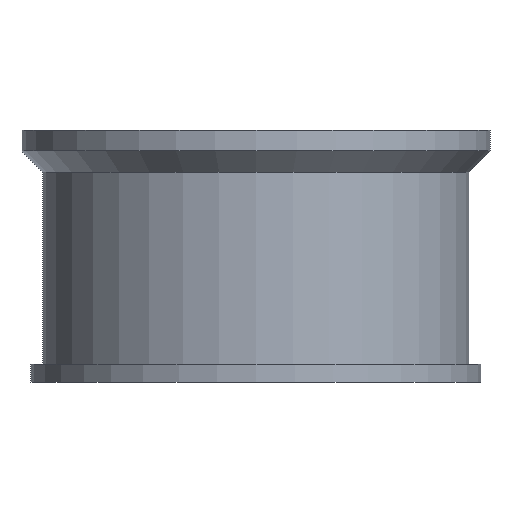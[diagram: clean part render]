
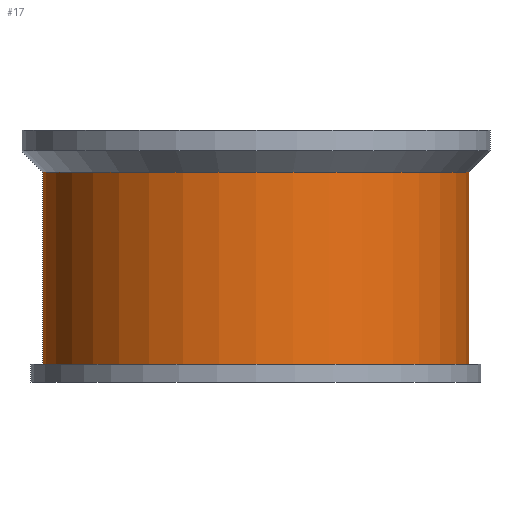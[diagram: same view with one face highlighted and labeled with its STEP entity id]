
A CAD part, front view. The second image highlights one B-rep face of the part: STEP entity #17.
In plain terms, the highlighted cylindrical face has radius 3.55 mm (diameter 7.1 mm), a full revolution.
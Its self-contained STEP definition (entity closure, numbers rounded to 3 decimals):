
#17 = ADVANCED_FACE('',(#18),#31,.T.);
#18 = FACE_BOUND('',#19,.T.);
#19 = EDGE_LOOP('',(#20,#54,#77,#104));
#20 = ORIENTED_EDGE('',*,*,#21,.T.);
#21 = EDGE_CURVE('',#22,#22,#24,.T.);
#22 = VERTEX_POINT('',#23);
#23 = CARTESIAN_POINT('',(3.55,0.,0.3));
#24 = SURFACE_CURVE('',#25,(#30,#42),.PCURVE_S1.);
#25 = CIRCLE('',#26,3.55);
#26 = AXIS2_PLACEMENT_3D('',#27,#28,#29);
#27 = CARTESIAN_POINT('',(0.,0.,0.3));
#28 = DIRECTION('',(0.,0.,1.));
#29 = DIRECTION('',(1.,0.,-0.));
#30 = PCURVE('',#31,#36);
#31 = CYLINDRICAL_SURFACE('',#32,3.55);
#32 = AXIS2_PLACEMENT_3D('',#33,#34,#35);
#33 = CARTESIAN_POINT('',(0.,0.,0.));
#34 = DIRECTION('',(0.,0.,1.));
#35 = DIRECTION('',(1.,0.,-0.));
#36 = DEFINITIONAL_REPRESENTATION('',(#37),#41);
#37 = LINE('',#38,#39);
#38 = CARTESIAN_POINT('',(0.,0.3));
#39 = VECTOR('',#40,1.);
#40 = DIRECTION('',(1.,0.));
#41 = ( GEOMETRIC_REPRESENTATION_CONTEXT(2) 
PARAMETRIC_REPRESENTATION_CONTEXT() REPRESENTATION_CONTEXT('2D SPACE',''
  ) );
#42 = PCURVE('',#43,#48);
#43 = PLANE('',#44);
#44 = AXIS2_PLACEMENT_3D('',#45,#46,#47);
#45 = CARTESIAN_POINT('',(0.,0.,0.3));
#46 = DIRECTION('',(0.,0.,1.));
#47 = DIRECTION('',(1.,0.,-0.));
#48 = DEFINITIONAL_REPRESENTATION('',(#49),#53);
#49 = CIRCLE('',#50,3.55);
#50 = AXIS2_PLACEMENT_2D('',#51,#52);
#51 = CARTESIAN_POINT('',(0.,0.));
#52 = DIRECTION('',(1.,0.));
#53 = ( GEOMETRIC_REPRESENTATION_CONTEXT(2) 
PARAMETRIC_REPRESENTATION_CONTEXT() REPRESENTATION_CONTEXT('2D SPACE',''
  ) );
#54 = ORIENTED_EDGE('',*,*,#55,.T.);
#55 = EDGE_CURVE('',#22,#56,#58,.T.);
#56 = VERTEX_POINT('',#57);
#57 = CARTESIAN_POINT('',(3.55,0.,3.5));
#58 = SEAM_CURVE('',#59,(#63,#70),.PCURVE_S1.);
#59 = LINE('',#60,#61);
#60 = CARTESIAN_POINT('',(3.55,0.,0.));
#61 = VECTOR('',#62,1.);
#62 = DIRECTION('',(0.,0.,1.));
#63 = PCURVE('',#31,#64);
#64 = DEFINITIONAL_REPRESENTATION('',(#65),#69);
#65 = LINE('',#66,#67);
#66 = CARTESIAN_POINT('',(0.,-0.));
#67 = VECTOR('',#68,1.);
#68 = DIRECTION('',(0.,1.));
#69 = ( GEOMETRIC_REPRESENTATION_CONTEXT(2) 
PARAMETRIC_REPRESENTATION_CONTEXT() REPRESENTATION_CONTEXT('2D SPACE',''
  ) );
#70 = PCURVE('',#31,#71);
#71 = DEFINITIONAL_REPRESENTATION('',(#72),#76);
#72 = LINE('',#73,#74);
#73 = CARTESIAN_POINT('',(6.283,-0.));
#74 = VECTOR('',#75,1.);
#75 = DIRECTION('',(0.,1.));
#76 = ( GEOMETRIC_REPRESENTATION_CONTEXT(2) 
PARAMETRIC_REPRESENTATION_CONTEXT() REPRESENTATION_CONTEXT('2D SPACE',''
  ) );
#77 = ORIENTED_EDGE('',*,*,#78,.F.);
#78 = EDGE_CURVE('',#56,#56,#79,.T.);
#79 = SURFACE_CURVE('',#80,(#85,#92),.PCURVE_S1.);
#80 = CIRCLE('',#81,3.55);
#81 = AXIS2_PLACEMENT_3D('',#82,#83,#84);
#82 = CARTESIAN_POINT('',(0.,0.,3.5));
#83 = DIRECTION('',(0.,0.,1.));
#84 = DIRECTION('',(1.,0.,-0.));
#85 = PCURVE('',#31,#86);
#86 = DEFINITIONAL_REPRESENTATION('',(#87),#91);
#87 = LINE('',#88,#89);
#88 = CARTESIAN_POINT('',(0.,3.5));
#89 = VECTOR('',#90,1.);
#90 = DIRECTION('',(1.,0.));
#91 = ( GEOMETRIC_REPRESENTATION_CONTEXT(2) 
PARAMETRIC_REPRESENTATION_CONTEXT() REPRESENTATION_CONTEXT('2D SPACE',''
  ) );
#92 = PCURVE('',#93,#98);
#93 = CONICAL_SURFACE('',#94,3.55,0.785);
#94 = AXIS2_PLACEMENT_3D('',#95,#96,#97);
#95 = CARTESIAN_POINT('',(0.,0.,3.5));
#96 = DIRECTION('',(0.,0.,1.));
#97 = DIRECTION('',(1.,0.,-0.));
#98 = DEFINITIONAL_REPRESENTATION('',(#99),#103);
#99 = LINE('',#100,#101);
#100 = CARTESIAN_POINT('',(0.,0.));
#101 = VECTOR('',#102,1.);
#102 = DIRECTION('',(1.,0.));
#103 = ( GEOMETRIC_REPRESENTATION_CONTEXT(2) 
PARAMETRIC_REPRESENTATION_CONTEXT() REPRESENTATION_CONTEXT('2D SPACE',''
  ) );
#104 = ORIENTED_EDGE('',*,*,#55,.F.);
